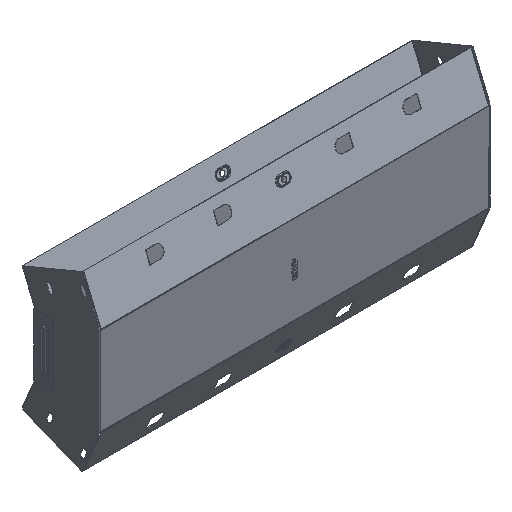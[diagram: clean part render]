
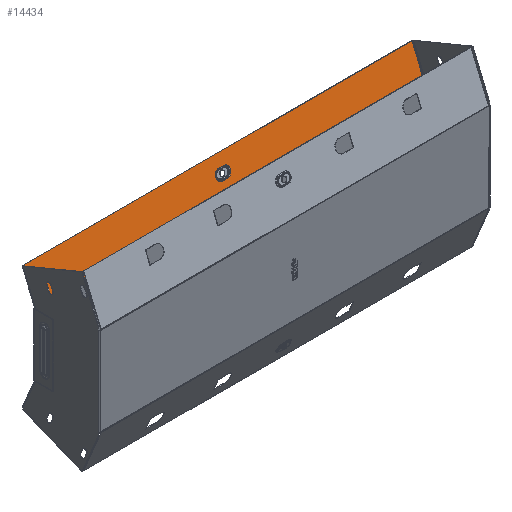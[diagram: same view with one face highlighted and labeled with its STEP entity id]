
A CAD part, isometric view. The second image highlights one B-rep face of the part: STEP entity #14434.
In plain terms, the highlighted planar face has unit normal (0, -0.924, 0.383).
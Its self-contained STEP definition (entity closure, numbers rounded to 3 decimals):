
#388 = DIRECTION ( 'NONE',  ( -1., 0., 0. ) ) ;
#606 = EDGE_CURVE ( 'NONE', #14965, #5482, #9565, .T. ) ;
#755 = FACE_OUTER_BOUND ( 'NONE', #4557, .T. ) ;
#929 = CARTESIAN_POINT ( 'NONE',  ( 299., 18.395, 94.5 ) ) ;
#990 = EDGE_CURVE ( 'NONE', #5482, #14996, #3053, .T. ) ;
#1321 = ORIENTED_EDGE ( 'NONE', *, *, #2479, .F. ) ;
#1582 = VERTEX_POINT ( 'NONE', #11419 ) ;
#1764 = VERTEX_POINT ( 'NONE', #929 ) ;
#2232 = DIRECTION ( 'NONE',  ( 0., -0.383, -0.924 ) ) ;
#2319 = CARTESIAN_POINT ( 'NONE',  ( 3.5, 12.118, 79.347 ) ) ;
#2475 = VECTOR ( 'NONE', #4978, 1000. ) ;
#2479 = EDGE_CURVE ( 'NONE', #1764, #6573, #9408, .T. ) ;
#3027 = AXIS2_PLACEMENT_3D ( 'NONE', #13468, #10038, #12353 ) ;
#3053 = CIRCLE ( 'NONE', #9807, 7.598 ) ;
#3072 = CARTESIAN_POINT ( 'NONE',  ( 299., -0.663, 48.49 ) ) ;
#3150 = EDGE_CURVE ( 'NONE', #8194, #6750, #8232, .T. ) ;
#3326 = VECTOR ( 'NONE', #5127, 1000. ) ;
#3412 = ORIENTED_EDGE ( 'NONE', *, *, #3150, .T. ) ;
#3677 = CARTESIAN_POINT ( 'NONE',  ( 299., 18.395, 94.5 ) ) ;
#3927 = CARTESIAN_POINT ( 'NONE',  ( -3.5, 6.303, 65.307 ) ) ;
#4115 = DIRECTION ( 'NONE',  ( -1., 0., 0. ) ) ;
#4191 = VECTOR ( 'NONE', #4115, 1000. ) ;
#4557 = EDGE_LOOP ( 'NONE', ( #3412, #12184, #1321, #9026 ) ) ;
#4571 = CARTESIAN_POINT ( 'NONE',  ( 3.5, 9.211, 72.327 ) ) ;
#4617 = DIRECTION ( 'NONE',  ( 0., -0.924, 0.383 ) ) ;
#4702 = LINE ( 'NONE', #3677, #2475 ) ;
#4978 = DIRECTION ( 'NONE',  ( -1., 0., 0. ) ) ;
#5127 = DIRECTION ( 'NONE',  ( 1., 0., 0. ) ) ;
#5384 = ORIENTED_EDGE ( 'NONE', *, *, #11121, .F. ) ;
#5482 = VERTEX_POINT ( 'NONE', #12040 ) ;
#6268 = DIRECTION ( 'NONE',  ( 0., -0.383, -0.924 ) ) ;
#6573 = VERTEX_POINT ( 'NONE', #3072 ) ;
#6750 = VERTEX_POINT ( 'NONE', #12920 ) ;
#6946 = EDGE_LOOP ( 'NONE', ( #7527, #10266, #8173, #5384 ) ) ;
#7508 = VECTOR ( 'NONE', #15032, 1000. ) ;
#7527 = ORIENTED_EDGE ( 'NONE', *, *, #990, .F. ) ;
#7880 = LINE ( 'NONE', #12177, #4191 ) ;
#8173 = ORIENTED_EDGE ( 'NONE', *, *, #11505, .F. ) ;
#8194 = VERTEX_POINT ( 'NONE', #10561 ) ;
#8232 = LINE ( 'NONE', #9194, #7508 ) ;
#8408 = PLANE ( 'NONE',  #11050 ) ;
#8684 = VECTOR ( 'NONE', #6268, 1000. ) ;
#9026 = ORIENTED_EDGE ( 'NONE', *, *, #10217, .T. ) ;
#9194 = CARTESIAN_POINT ( 'NONE',  ( -299., -0.739, 48.306 ) ) ;
#9408 = LINE ( 'NONE', #14127, #8684 ) ;
#9565 = LINE ( 'NONE', #3927, #3326 ) ;
#9612 = FACE_BOUND ( 'NONE', #6946, .T. ) ;
#9807 = AXIS2_PLACEMENT_3D ( 'NONE', #4571, #4617, #2232 ) ;
#10022 = VECTOR ( 'NONE', #388, 1000. ) ;
#10038 = DIRECTION ( 'NONE',  ( 0., -0.924, 0.383 ) ) ;
#10217 = EDGE_CURVE ( 'NONE', #1764, #8194, #4702, .T. ) ;
#10266 = ORIENTED_EDGE ( 'NONE', *, *, #606, .F. ) ;
#10561 = CARTESIAN_POINT ( 'NONE',  ( -299., 18.395, 94.5 ) ) ;
#10580 = DIRECTION ( 'NONE',  ( 0., 0.383, 0.924 ) ) ;
#11050 = AXIS2_PLACEMENT_3D ( 'NONE', #12918, #12976, #10580 ) ;
#11121 = EDGE_CURVE ( 'NONE', #14996, #1582, #7880, .T. ) ;
#11419 = CARTESIAN_POINT ( 'NONE',  ( -3.5, 12.118, 79.347 ) ) ;
#11505 = EDGE_CURVE ( 'NONE', #1582, #14965, #12043, .T. ) ;
#11644 = LINE ( 'NONE', #12121, #10022 ) ;
#12040 = CARTESIAN_POINT ( 'NONE',  ( 3.5, 6.303, 65.307 ) ) ;
#12043 = CIRCLE ( 'NONE', #3027, 7.598 ) ;
#12121 = CARTESIAN_POINT ( 'NONE',  ( 299., -0.663, 48.49 ) ) ;
#12177 = CARTESIAN_POINT ( 'NONE',  ( -3.5, 12.118, 79.347 ) ) ;
#12184 = ORIENTED_EDGE ( 'NONE', *, *, #12246, .F. ) ;
#12246 = EDGE_CURVE ( 'NONE', #6573, #6750, #11644, .T. ) ;
#12353 = DIRECTION ( 'NONE',  ( 0., -0.383, -0.924 ) ) ;
#12918 = CARTESIAN_POINT ( 'NONE',  ( 299., -0.739, 48.306 ) ) ;
#12920 = CARTESIAN_POINT ( 'NONE',  ( -299., -0.663, 48.49 ) ) ;
#12976 = DIRECTION ( 'NONE',  ( 0., 0.924, -0.383 ) ) ;
#13468 = CARTESIAN_POINT ( 'NONE',  ( -3.5, 9.211, 72.327 ) ) ;
#14022 = CARTESIAN_POINT ( 'NONE',  ( -3.5, 6.303, 65.307 ) ) ;
#14127 = CARTESIAN_POINT ( 'NONE',  ( 299., -0.739, 48.306 ) ) ;
#14434 = ADVANCED_FACE ( 'NONE', ( #9612, #755 ), #8408, .F. ) ;
#14965 = VERTEX_POINT ( 'NONE', #14022 ) ;
#14996 = VERTEX_POINT ( 'NONE', #2319 ) ;
#15032 = DIRECTION ( 'NONE',  ( 0., -0.383, -0.924 ) ) ;
